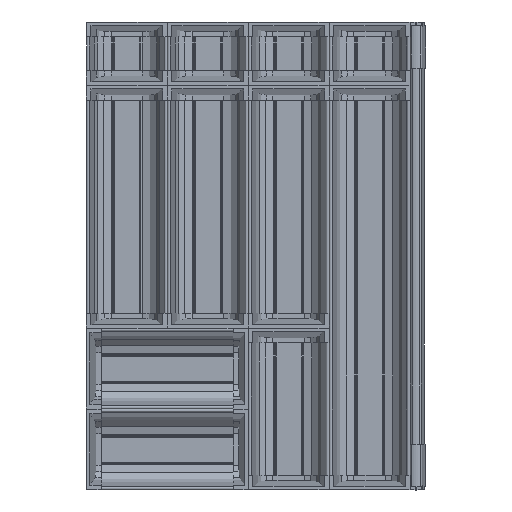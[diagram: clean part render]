
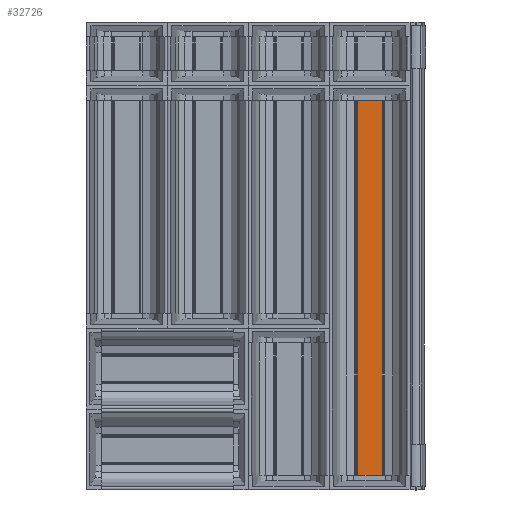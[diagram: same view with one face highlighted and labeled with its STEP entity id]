
A CAD part, top view. The second image highlights one B-rep face of the part: STEP entity #32726.
In plain terms, the highlighted planar face has unit normal (0, 0, 1).
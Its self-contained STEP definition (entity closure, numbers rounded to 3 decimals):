
#1839 = CARTESIAN_POINT ( 'NONE',  ( 330.75, 16.5, 5.6 ) ) ;
#1843 = CARTESIAN_POINT ( 'NONE',  ( 330.75, 436., 5.6 ) ) ;
#1846 = CARTESIAN_POINT ( 'NONE',  ( 302.75, 16.5, 5.6 ) ) ;
#1854 = CARTESIAN_POINT ( 'NONE',  ( 302.75, 436., 5.6 ) ) ;
#8412 = VERTEX_POINT ( 'NONE', #1839 ) ;
#8415 = VERTEX_POINT ( 'NONE', #1843 ) ;
#8417 = VERTEX_POINT ( 'NONE', #1846 ) ;
#8423 = VERTEX_POINT ( 'NONE', #1854 ) ;
#14781 = CARTESIAN_POINT ( 'NONE',  ( 330.75, 441.5, 5.6 ) ) ;
#14782 = PLANE ( 'NONE',  #55256 ) ;
#14791 = DIRECTION ( 'NONE',  ( 0., 0., -1. ) ) ;
#14792 = DIRECTION ( 'NONE',  ( 0., -1., 0. ) ) ;
#15549 = FACE_OUTER_BOUND ( 'NONE', #61420, .T. ) ;
#32726 = ADVANCED_FACE ( 'NONE', ( #15549 ), #14782, .F. ) ;
#35348 = LINE ( 'NONE', #36170, #35349 ) ;
#35349 = VECTOR ( 'NONE', #36171, 1000. ) ;
#35350 = LINE ( 'NONE', #36155, #35354 ) ;
#35352 = LINE ( 'NONE', #36163, #35353 ) ;
#35353 = VECTOR ( 'NONE', #36164, 1000. ) ;
#35354 = VECTOR ( 'NONE', #36166, 1000. ) ;
#35355 = VECTOR ( 'NONE', #36176, 1000. ) ;
#35356 = LINE ( 'NONE', #36175, #35355 ) ;
#36155 = CARTESIAN_POINT ( 'NONE',  ( 330.75, 16.5, 5.6 ) ) ;
#36163 = CARTESIAN_POINT ( 'NONE',  ( 302.75, 441.5, 5.6 ) ) ;
#36164 = DIRECTION ( 'NONE',  ( 0., -1., 0. ) ) ;
#36166 = DIRECTION ( 'NONE',  ( -1., 0., 0. ) ) ;
#36170 = CARTESIAN_POINT ( 'NONE',  ( 330.75, 441.5, 5.6 ) ) ;
#36171 = DIRECTION ( 'NONE',  ( 0., -1., 0. ) ) ;
#36175 = CARTESIAN_POINT ( 'NONE',  ( 330.75, 436., 5.6 ) ) ;
#36176 = DIRECTION ( 'NONE',  ( 1., 0., 0. ) ) ;
#51556 = ORIENTED_EDGE ( 'NONE', *, *, #58044, .F. ) ;
#51557 = ORIENTED_EDGE ( 'NONE', *, *, #58039, .T. ) ;
#51558 = ORIENTED_EDGE ( 'NONE', *, *, #58040, .F. ) ;
#51559 = ORIENTED_EDGE ( 'NONE', *, *, #58042, .F. ) ;
#55256 = AXIS2_PLACEMENT_3D ( 'NONE', #14781, #14791, #14792 ) ;
#58039 = EDGE_CURVE ( 'NONE', #8423, #8417, #35352, .T. ) ;
#58040 = EDGE_CURVE ( 'NONE', #8412, #8417, #35350, .T. ) ;
#58042 = EDGE_CURVE ( 'NONE', #8415, #8412, #35348, .T. ) ;
#58044 = EDGE_CURVE ( 'NONE', #8423, #8415, #35356, .T. ) ;
#61420 = EDGE_LOOP ( 'NONE', ( #51556, #51557, #51558, #51559 ) ) ;
